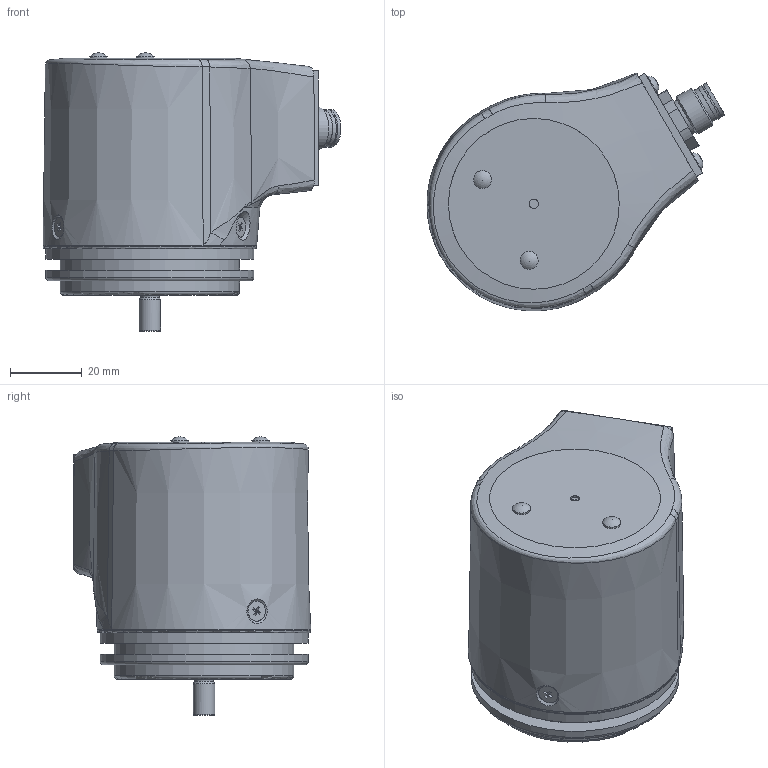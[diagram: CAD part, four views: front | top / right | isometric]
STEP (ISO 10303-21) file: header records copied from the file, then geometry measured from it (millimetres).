
FILE_DESCRIPTION(/* description */ ('Unknown'),/* implementation_level */ '2;1');
FILE_NAME(/* name */ 'EAL_EAML_58_B_M12R',/* time_stamp */ '2018-04-19T15:56:40+02:00',/* author */ ('Unknown'),/* organization */ ('Unknown'),/* preprocessor_version */ 'ST-DEVELOPER v16.7',/* originating_system */ 'DEX',/* authorisation */ $);
FILE_SCHEMA (('AUTOMOTIVE_DESIGN {1 0 10303 214 3 1 1}'));
Length unit declared in the file: millimetre
Products named in the file (1): tmpEAL_EAML_58_B_M12R
Bounding box: 83.01 x 66.24 x 77.54 mm (x, y, z)
Volume: 90340.5 mm3; surface area: 47949.8 mm2
Topology: 3 solids, 19 shells, 532 faces, 1268 edges, 837 vertices
Faces by surface type: plane 267, cylinder 137, cone 74, torus 37, bspline 17
Full cylindrical faces by diameter (mm): 0.9 x16, 1.5 x8, 2.013 x7, 2.459 x7, 2.5 x1, 3 x7, 3.3 x6, 3.4 x3, 4.98 x1, 5 x3, 5.6 x3, 6 x6, 7.98 x1, 8 x7, 8.25 x1, 8.772 x1, 10 x5, 10.4 x4, 12 x1, 12.4 x1, 13 x1, 14.53 x1, 15.2 x1, 22 x3, 22.1 x2, 22.5 x1, 27 x1, 29 x2, 50 x2, 51.2 x1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
Entity records: 18388 total; most frequent: CARTESIAN_POINT 4227, DIRECTION 2168, ORIENTED_EDGE 1840, EDGE_CURVE 920, AXIS2_PLACEMENT_3D 915, FACE_BOUND 854, EDGE_LOOP 831, VERTEX_POINT 726
